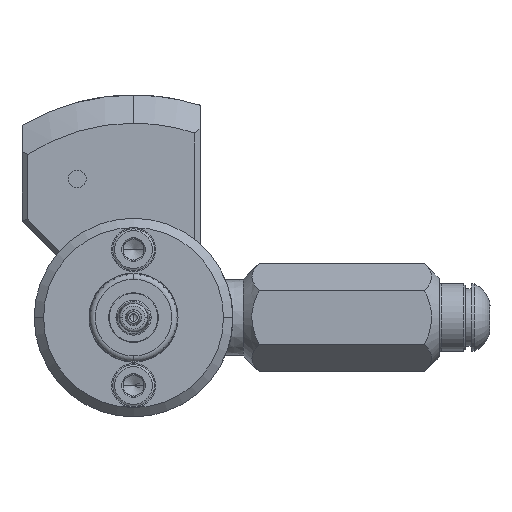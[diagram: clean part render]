
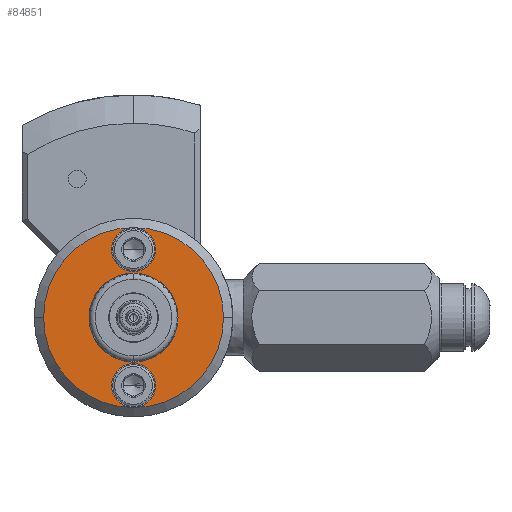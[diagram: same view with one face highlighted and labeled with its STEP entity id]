
A CAD part, front view. The second image highlights one B-rep face of the part: STEP entity #84851.
In plain terms, the highlighted planar face has unit normal (0, -1, 0).
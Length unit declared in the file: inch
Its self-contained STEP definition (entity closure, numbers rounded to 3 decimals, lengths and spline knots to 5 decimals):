
#883 = FACE_OUTER_BOUND ( 'NONE', #92165, .T. ) ;
#3341 = PLANE ( 'NONE',  #135118 ) ;
#3551 = CARTESIAN_POINT ( 'NONE',  ( -0.2375, -0.875, 0. ) ) ;
#4470 = FACE_BOUND ( 'NONE', #120604, .T. ) ;
#6902 = VERTEX_POINT ( 'NONE', #38416 ) ;
#7554 = DIRECTION ( 'NONE',  ( 0., -1., 0. ) ) ;
#16991 = FACE_BOUND ( 'NONE', #131740, .T. ) ;
#17417 = ORIENTED_EDGE ( 'NONE', *, *, #25562, .T. ) ;
#19056 = DIRECTION ( 'NONE',  ( 1., 0., 0. ) ) ;
#20121 = CARTESIAN_POINT ( 'NONE',  ( 0.117, -0.875, -0.3625 ) ) ;
#20445 = CARTESIAN_POINT ( 'NONE',  ( 0., -0.875, 0. ) ) ;
#21221 = AXIS2_PLACEMENT_3D ( 'NONE', #136457, #67972, #79954 ) ;
#23288 = VERTEX_POINT ( 'NONE', #82050 ) ;
#24606 = CIRCLE ( 'NONE', #51433, 0.48 ) ;
#25562 = EDGE_CURVE ( 'NONE', #45477, #6902, #89441, .T. ) ;
#28563 = CARTESIAN_POINT ( 'NONE',  ( 0., -0.875, 0. ) ) ;
#28829 = VERTEX_POINT ( 'NONE', #99961 ) ;
#29495 = CIRCLE ( 'NONE', #147693, 0.117 ) ;
#33761 = VERTEX_POINT ( 'NONE', #3551 ) ;
#36651 = CIRCLE ( 'NONE', #116822, 0.2375 ) ;
#36873 = EDGE_CURVE ( 'NONE', #125392, #71572, #29495, .T. ) ;
#38416 = CARTESIAN_POINT ( 'NONE',  ( -0.48, -0.875, 0. ) ) ;
#39450 = DIRECTION ( 'NONE',  ( 0., -1., 0. ) ) ;
#40508 = CARTESIAN_POINT ( 'NONE',  ( 0., -0.875, -0.3625 ) ) ;
#40562 = AXIS2_PLACEMENT_3D ( 'NONE', #142858, #39450, #62881 ) ;
#45477 = VERTEX_POINT ( 'NONE', #73325 ) ;
#45941 = DIRECTION ( 'NONE',  ( 0., -1., 0. ) ) ;
#46107 = EDGE_CURVE ( 'NONE', #6902, #45477, #24606, .T. ) ;
#46967 = ORIENTED_EDGE ( 'NONE', *, *, #128245, .F. ) ;
#49272 = DIRECTION ( 'NONE',  ( 0., -1., 0. ) ) ;
#50689 = CIRCLE ( 'NONE', #135786, 0.117 ) ;
#51433 = AXIS2_PLACEMENT_3D ( 'NONE', #148412, #45941, #102848 ) ;
#51868 = CARTESIAN_POINT ( 'NONE',  ( -0.117, -0.875, -0.3625 ) ) ;
#51975 = DIRECTION ( 'NONE',  ( 0., -1., 0. ) ) ;
#52475 = DIRECTION ( 'NONE',  ( -1., 0., 0. ) ) ;
#52972 = CARTESIAN_POINT ( 'NONE',  ( 0., -0.875, 0.3625 ) ) ;
#54858 = DIRECTION ( 'NONE',  ( 1., 0., 0. ) ) ;
#60768 = ORIENTED_EDGE ( 'NONE', *, *, #80926, .F. ) ;
#62881 = DIRECTION ( 'NONE',  ( 1., 0., 0. ) ) ;
#63193 = ORIENTED_EDGE ( 'NONE', *, *, #109615, .F. ) ;
#66861 = ORIENTED_EDGE ( 'NONE', *, *, #36873, .F. ) ;
#67972 = DIRECTION ( 'NONE',  ( 0., -1., 0. ) ) ;
#68550 = CIRCLE ( 'NONE', #142217, 0.117 ) ;
#71572 = VERTEX_POINT ( 'NONE', #20121 ) ;
#73325 = CARTESIAN_POINT ( 'NONE',  ( 0.48, -0.875, 0. ) ) ;
#74784 = ORIENTED_EDGE ( 'NONE', *, *, #123829, .F. ) ;
#79954 = DIRECTION ( 'NONE',  ( 1., 0., 0. ) ) ;
#80112 = CIRCLE ( 'NONE', #80794, 0.2375 ) ;
#80794 = AXIS2_PLACEMENT_3D ( 'NONE', #20445, #110798, #54858 ) ;
#80926 = EDGE_CURVE ( 'NONE', #71572, #125392, #50689, .T. ) ;
#81972 = CIRCLE ( 'NONE', #40562, 0.117 ) ;
#82050 = CARTESIAN_POINT ( 'NONE',  ( -0.117, -0.875, 0.3625 ) ) ;
#84360 = ORIENTED_EDGE ( 'NONE', *, *, #109515, .F. ) ;
#84851 = ADVANCED_FACE ( 'NONE', ( #16991, #134953, #883, #4470 ), #3341, .T. ) ;
#89441 = CIRCLE ( 'NONE', #21221, 0.48 ) ;
#92165 = EDGE_LOOP ( 'NONE', ( #103421, #17417 ) ) ;
#95217 = CARTESIAN_POINT ( 'NONE',  ( 0., -0.875, 0.2375 ) ) ;
#99961 = CARTESIAN_POINT ( 'NONE',  ( 0.117, -0.875, 0.3625 ) ) ;
#102848 = DIRECTION ( 'NONE',  ( 1., 0., 0. ) ) ;
#103421 = ORIENTED_EDGE ( 'NONE', *, *, #46107, .T. ) ;
#109515 = EDGE_CURVE ( 'NONE', #28829, #23288, #81972, .T. ) ;
#109615 = EDGE_CURVE ( 'NONE', #131412, #33761, #80112, .T. ) ;
#110798 = DIRECTION ( 'NONE',  ( 0., -1., 0. ) ) ;
#112139 = DIRECTION ( 'NONE',  ( 0., -1., 0. ) ) ;
#116822 = AXIS2_PLACEMENT_3D ( 'NONE', #28563, #142951, #132947 ) ;
#118665 = DIRECTION ( 'NONE',  ( 1., 0., 0. ) ) ;
#120604 = EDGE_LOOP ( 'NONE', ( #63193, #74784 ) ) ;
#123829 = EDGE_CURVE ( 'NONE', #33761, #131412, #36651, .T. ) ;
#124095 = CARTESIAN_POINT ( 'NONE',  ( 0.2375, -0.875, 0. ) ) ;
#125392 = VERTEX_POINT ( 'NONE', #51868 ) ;
#128245 = EDGE_CURVE ( 'NONE', #23288, #28829, #68550, .T. ) ;
#129449 = EDGE_LOOP ( 'NONE', ( #84360, #46967 ) ) ;
#131412 = VERTEX_POINT ( 'NONE', #124095 ) ;
#131740 = EDGE_LOOP ( 'NONE', ( #60768, #66861 ) ) ;
#132947 = DIRECTION ( 'NONE',  ( 1., 0., 0. ) ) ;
#133717 = DIRECTION ( 'NONE',  ( -1., 0., 0. ) ) ;
#134696 = CARTESIAN_POINT ( 'NONE',  ( 0., -0.875, -0.3625 ) ) ;
#134953 = FACE_BOUND ( 'NONE', #129449, .T. ) ;
#135118 = AXIS2_PLACEMENT_3D ( 'NONE', #95217, #49272, #118665 ) ;
#135786 = AXIS2_PLACEMENT_3D ( 'NONE', #40508, #51975, #52475 ) ;
#136457 = CARTESIAN_POINT ( 'NONE',  ( 0., -0.875, 0. ) ) ;
#142217 = AXIS2_PLACEMENT_3D ( 'NONE', #52972, #7554, #19056 ) ;
#142858 = CARTESIAN_POINT ( 'NONE',  ( 0., -0.875, 0.3625 ) ) ;
#142951 = DIRECTION ( 'NONE',  ( 0., -1., 0. ) ) ;
#147693 = AXIS2_PLACEMENT_3D ( 'NONE', #134696, #112139, #133717 ) ;
#148412 = CARTESIAN_POINT ( 'NONE',  ( 0., -0.875, 0. ) ) ;
